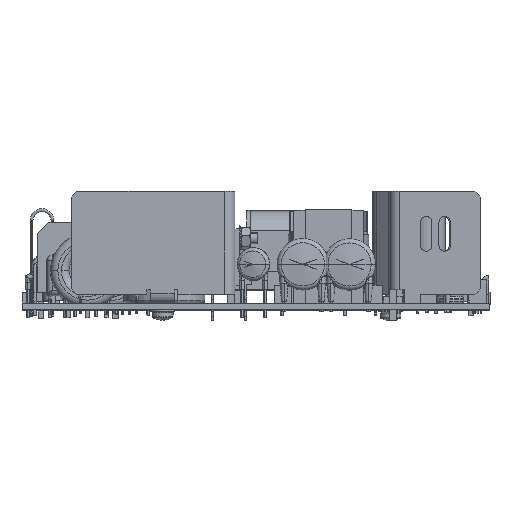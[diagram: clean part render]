
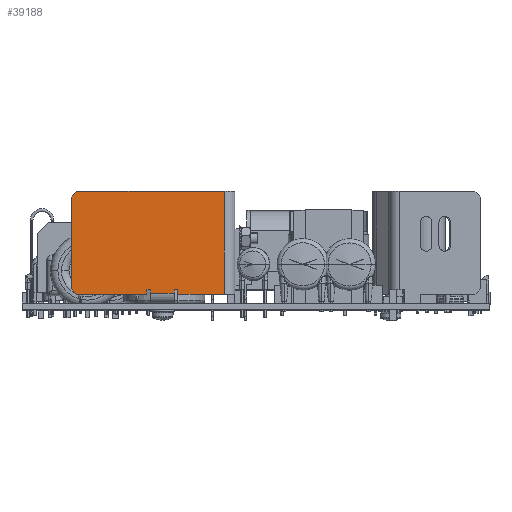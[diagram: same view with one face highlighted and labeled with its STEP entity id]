
A CAD part, top view. The second image highlights one B-rep face of the part: STEP entity #39188.
In plain terms, the highlighted planar face has unit normal (0, 0, 1) as drawn and (-1, 0, 0) by its records, which use the part's own axes.
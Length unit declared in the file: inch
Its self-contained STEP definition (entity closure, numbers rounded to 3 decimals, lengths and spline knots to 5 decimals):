
#7172 = LINE ( 'NONE', #7180, #8020 ) ;
#7175 = LINE ( 'NONE', #7183, #8023 ) ;
#7178 = LINE ( 'NONE', #7189, #8024 ) ;
#7180 = CARTESIAN_POINT ( 'NONE',  ( 0., 1.1, -1.75 ) ) ;
#7181 = LINE ( 'NONE', #7212, #8029 ) ;
#7182 = DIRECTION ( 'NONE',  ( 0., -1., 0. ) ) ;
#7183 = CARTESIAN_POINT ( 'NONE',  ( 0., -0.295, -1.395 ) ) ;
#7184 = DIRECTION ( 'NONE',  ( 0., -0.707, 0.707 ) ) ;
#7185 = LINE ( 'NONE', #7187, #8027 ) ;
#7186 = LINE ( 'NONE', #7214, #8046 ) ;
#7187 = CARTESIAN_POINT ( 'NONE',  ( 0., 0., 0. ) ) ;
#7188 = DIRECTION ( 'NONE',  ( 0., 0., -1. ) ) ;
#7189 = CARTESIAN_POINT ( 'NONE',  ( 0., 1.1, -0.94 ) ) ;
#7190 = DIRECTION ( 'NONE',  ( 0., 1., 0. ) ) ;
#7191 = LINE ( 'NONE', #7192, #8031 ) ;
#7192 = CARTESIAN_POINT ( 'NONE',  ( 0., 0.052, 0. ) ) ;
#7193 = DIRECTION ( 'NONE',  ( 0., 0., 1. ) ) ;
#7194 = LINE ( 'NONE', #7195, #8033 ) ;
#7195 = CARTESIAN_POINT ( 'NONE',  ( 0., 1.1, -0.9 ) ) ;
#7196 = DIRECTION ( 'NONE',  ( 0., -1., 0. ) ) ;
#7197 = LINE ( 'NONE', #7198, #8036 ) ;
#7198 = CARTESIAN_POINT ( 'NONE',  ( 0., 0.012, -0.9 ) ) ;
#7199 = DIRECTION ( 'NONE',  ( 0., 0., 1. ) ) ;
#7200 = LINE ( 'NONE', #7201, #8037 ) ;
#7201 = CARTESIAN_POINT ( 'NONE',  ( 0., 1.1, -0.65 ) ) ;
#7202 = DIRECTION ( 'NONE',  ( 0., 1., 0. ) ) ;
#7203 = LINE ( 'NONE', #7204, #8040 ) ;
#7204 = CARTESIAN_POINT ( 'NONE',  ( 0., 0.052, 0. ) ) ;
#7205 = DIRECTION ( 'NONE',  ( 0., 0., 1. ) ) ;
#7206 = LINE ( 'NONE', #7207, #8042 ) ;
#7207 = CARTESIAN_POINT ( 'NONE',  ( 0., 1.1, -0.61 ) ) ;
#7208 = DIRECTION ( 'NONE',  ( 0., -1., 0. ) ) ;
#7209 = LINE ( 'NONE', #7210, #8045 ) ;
#7210 = CARTESIAN_POINT ( 'NONE',  ( 0., 0., 0. ) ) ;
#7211 = DIRECTION ( 'NONE',  ( 0., 0., -1. ) ) ;
#7212 = CARTESIAN_POINT ( 'NONE',  ( 0., 1.1, -0.112 ) ) ;
#7213 = DIRECTION ( 'NONE',  ( 0., -1., 0. ) ) ;
#7214 = CARTESIAN_POINT ( 'NONE',  ( 0., 1.1, 0. ) ) ;
#7215 = DIRECTION ( 'NONE',  ( 0., 0., -1. ) ) ;
#7216 = LINE ( 'NONE', #7217, #8051 ) ;
#7217 = CARTESIAN_POINT ( 'NONE',  ( 0., 1.945, -0.845 ) ) ;
#7218 = DIRECTION ( 'NONE',  ( 0., -0.707, -0.707 ) ) ;
#8020 = VECTOR ( 'NONE', #7182, 39.37008 ) ;
#8023 = VECTOR ( 'NONE', #7184, 39.37008 ) ;
#8024 = VECTOR ( 'NONE', #7190, 39.37008 ) ;
#8027 = VECTOR ( 'NONE', #7188, 39.37008 ) ;
#8029 = VECTOR ( 'NONE', #7213, 39.37008 ) ;
#8031 = VECTOR ( 'NONE', #7193, 39.37008 ) ;
#8033 = VECTOR ( 'NONE', #7196, 39.37008 ) ;
#8036 = VECTOR ( 'NONE', #7199, 39.37008 ) ;
#8037 = VECTOR ( 'NONE', #7202, 39.37008 ) ;
#8040 = VECTOR ( 'NONE', #7205, 39.37008 ) ;
#8042 = VECTOR ( 'NONE', #7208, 39.37008 ) ;
#8045 = VECTOR ( 'NONE', #7211, 39.37008 ) ;
#8046 = VECTOR ( 'NONE', #7215, 39.37008 ) ;
#8051 = VECTOR ( 'NONE', #7218, 39.37008 ) ;
#14082 = VERTEX_POINT ( 'NONE', #79929 ) ;
#14083 = VERTEX_POINT ( 'NONE', #79930 ) ;
#14085 = VERTEX_POINT ( 'NONE', #79932 ) ;
#14087 = VERTEX_POINT ( 'NONE', #79934 ) ;
#14088 = VERTEX_POINT ( 'NONE', #79935 ) ;
#14089 = VERTEX_POINT ( 'NONE', #79936 ) ;
#14090 = VERTEX_POINT ( 'NONE', #79937 ) ;
#14091 = VERTEX_POINT ( 'NONE', #79938 ) ;
#14092 = VERTEX_POINT ( 'NONE', #79939 ) ;
#14093 = VERTEX_POINT ( 'NONE', #79940 ) ;
#14094 = VERTEX_POINT ( 'NONE', #79941 ) ;
#14095 = VERTEX_POINT ( 'NONE', #79942 ) ;
#14096 = VERTEX_POINT ( 'NONE', #79943 ) ;
#14099 = VERTEX_POINT ( 'NONE', #79946 ) ;
#17036 = PLANE ( 'NONE',  #17516 ) ;
#17038 = CARTESIAN_POINT ( 'NONE',  ( 0., 1.1, 0. ) ) ;
#17042 = FACE_OUTER_BOUND ( 'NONE', #37443, .T. ) ;
#17044 = DIRECTION ( 'NONE',  ( -1., 0., 0. ) ) ;
#17045 = DIRECTION ( 'NONE',  ( 0., 0., 1. ) ) ;
#17516 = AXIS2_PLACEMENT_3D ( 'NONE', #17038, #17044, #17045 ) ;
#36185 = EDGE_CURVE ( 'NONE', #14083, #14085, #7172, .T. ) ;
#36186 = EDGE_CURVE ( 'NONE', #14085, #14088, #7175, .T. ) ;
#36187 = EDGE_CURVE ( 'NONE', #14087, #14088, #7185, .T. ) ;
#36188 = EDGE_CURVE ( 'NONE', #14087, #14090, #7178, .T. ) ;
#36189 = EDGE_CURVE ( 'NONE', #14090, #14091, #7191, .T. ) ;
#36190 = EDGE_CURVE ( 'NONE', #14091, #14092, #7194, .T. ) ;
#36191 = EDGE_CURVE ( 'NONE', #14092, #14093, #7197, .T. ) ;
#36192 = EDGE_CURVE ( 'NONE', #14093, #14094, #7200, .T. ) ;
#36193 = EDGE_CURVE ( 'NONE', #14094, #14095, #7203, .T. ) ;
#36194 = EDGE_CURVE ( 'NONE', #14095, #14096, #7206, .T. ) ;
#36195 = EDGE_CURVE ( 'NONE', #14089, #14096, #7209, .T. ) ;
#36196 = EDGE_CURVE ( 'NONE', #14082, #14089, #7181, .T. ) ;
#36197 = EDGE_CURVE ( 'NONE', #14082, #14099, #7186, .T. ) ;
#36198 = EDGE_CURVE ( 'NONE', #14099, #14083, #7216, .T. ) ;
#37443 = EDGE_LOOP ( 'NONE', ( #39021, #39022, #39023, #39024, #39025, #39026, #39027, #39028, #39029, #39030, #39031, #39032, #39033, #39034 ) ) ;
#39021 = ORIENTED_EDGE ( 'NONE', *, *, #36185, .T. ) ;
#39022 = ORIENTED_EDGE ( 'NONE', *, *, #36186, .T. ) ;
#39023 = ORIENTED_EDGE ( 'NONE', *, *, #36187, .F. ) ;
#39024 = ORIENTED_EDGE ( 'NONE', *, *, #36188, .T. ) ;
#39025 = ORIENTED_EDGE ( 'NONE', *, *, #36189, .T. ) ;
#39026 = ORIENTED_EDGE ( 'NONE', *, *, #36190, .T. ) ;
#39027 = ORIENTED_EDGE ( 'NONE', *, *, #36191, .T. ) ;
#39028 = ORIENTED_EDGE ( 'NONE', *, *, #36192, .T. ) ;
#39029 = ORIENTED_EDGE ( 'NONE', *, *, #36193, .T. ) ;
#39030 = ORIENTED_EDGE ( 'NONE', *, *, #36194, .T. ) ;
#39031 = ORIENTED_EDGE ( 'NONE', *, *, #36195, .F. ) ;
#39032 = ORIENTED_EDGE ( 'NONE', *, *, #36196, .F. ) ;
#39033 = ORIENTED_EDGE ( 'NONE', *, *, #36197, .T. ) ;
#39034 = ORIENTED_EDGE ( 'NONE', *, *, #36198, .T. ) ;
#39188 = ADVANCED_FACE ( 'NONE', ( #17042 ), #17036, .T. ) ;
#79929 = CARTESIAN_POINT ( 'NONE',  ( 0., 1.1, -0.112 ) ) ;
#79930 = CARTESIAN_POINT ( 'NONE',  ( 0., 1.04, -1.75 ) ) ;
#79932 = CARTESIAN_POINT ( 'NONE',  ( 0., 0.06, -1.75 ) ) ;
#79934 = CARTESIAN_POINT ( 'NONE',  ( 0., 0., -0.94 ) ) ;
#79935 = CARTESIAN_POINT ( 'NONE',  ( 0., 0., -1.69 ) ) ;
#79936 = CARTESIAN_POINT ( 'NONE',  ( 0., 0., -0.112 ) ) ;
#79937 = CARTESIAN_POINT ( 'NONE',  ( 0., 0.052, -0.94 ) ) ;
#79938 = CARTESIAN_POINT ( 'NONE',  ( 0., 0.052, -0.9 ) ) ;
#79939 = CARTESIAN_POINT ( 'NONE',  ( 0., 0.012, -0.9 ) ) ;
#79940 = CARTESIAN_POINT ( 'NONE',  ( 0., 0.012, -0.65 ) ) ;
#79941 = CARTESIAN_POINT ( 'NONE',  ( 0., 0.052, -0.65 ) ) ;
#79942 = CARTESIAN_POINT ( 'NONE',  ( 0., 0.052, -0.61 ) ) ;
#79943 = CARTESIAN_POINT ( 'NONE',  ( 0., 0., -0.61 ) ) ;
#79946 = CARTESIAN_POINT ( 'NONE',  ( 0., 1.1, -1.69 ) ) ;
